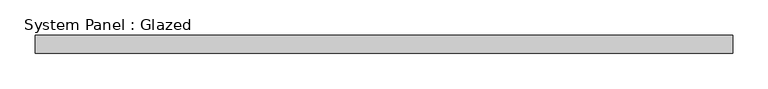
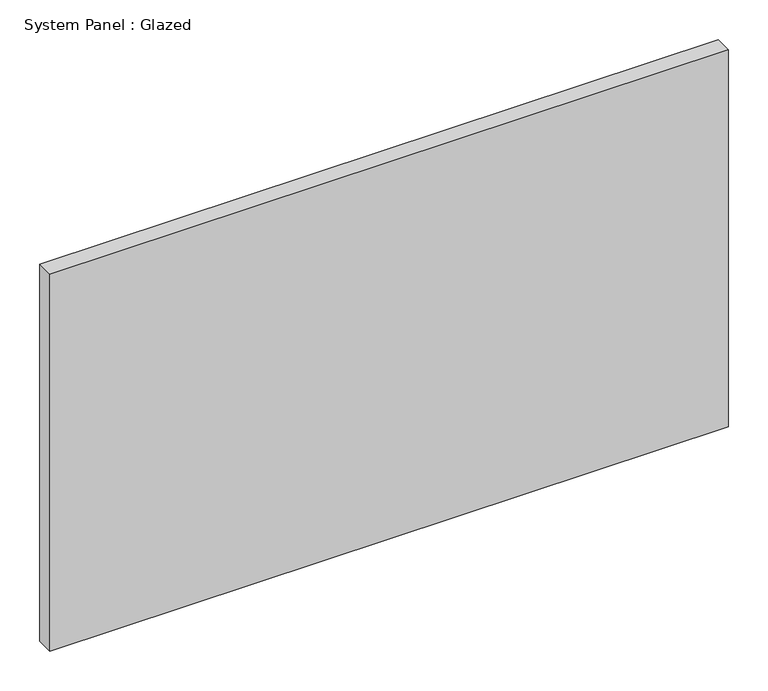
"""IFC4 building model written with IfcOpenShell, lengths in millimetres: plate geometry, System Panel : Glazed."""

from ifc_helpers import new_model, si_unit, origin, origin_with_axes, place, context, project, spatial, polyline, outline, extrude, source, transform, mapped, element, save


def system_panel_glazed_2b7ce968(model_context):
    return source(origin(), model_context, "Body", "SweptSolid", [
        extrude(outline(polyline([(492.1249999, 19.05), (-492.1249999, 19.05), (-492.1249999, 44.45), (492.1249999, 44.45), (492.1249999, 19.05)])), origin_with_axes(), (0.0, 0.0, 1.0), 577.85),
    ])


if __name__ == "__main__":
    model = new_model("IFC4")
    model_context = context("Model", 3, world=origin())
    ifc_project = project(units=[si_unit("LENGTHUNIT", "METRE", prefix="MILLI")], contexts=[model_context])
    site = spatial("IfcSite", under=ifc_project)
    building = spatial("IfcBuilding", under=site)
    placement = place(None, origin())
    system_panel_glazed_shape = system_panel_glazed_2b7ce968(model_context)
    element("IfcPlate", 1, ObjectType="System Panel : Glazed", at=placement, inside=building, context=model_context, shape_type="MappedRepresentation", body=[
        mapped(system_panel_glazed_shape, transform((0.0, 0.0, 0.0), x_axis=(1.0, 0.0, 0.0), y_axis=(0.0, 1.0, 0.0), z_axis=(0.0, 0.0, 1.0))),
    ])
    save(model, "model.ifc")
